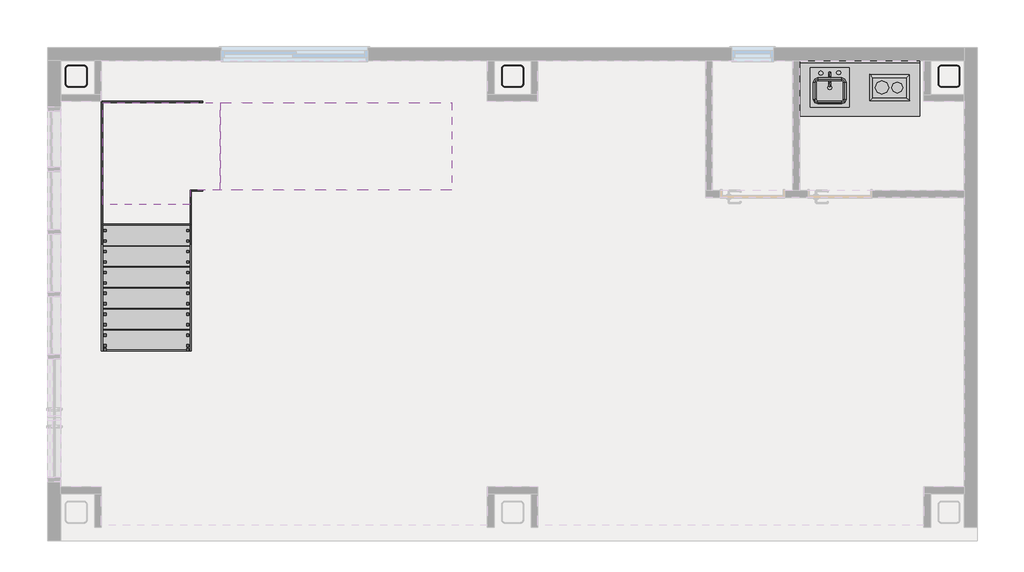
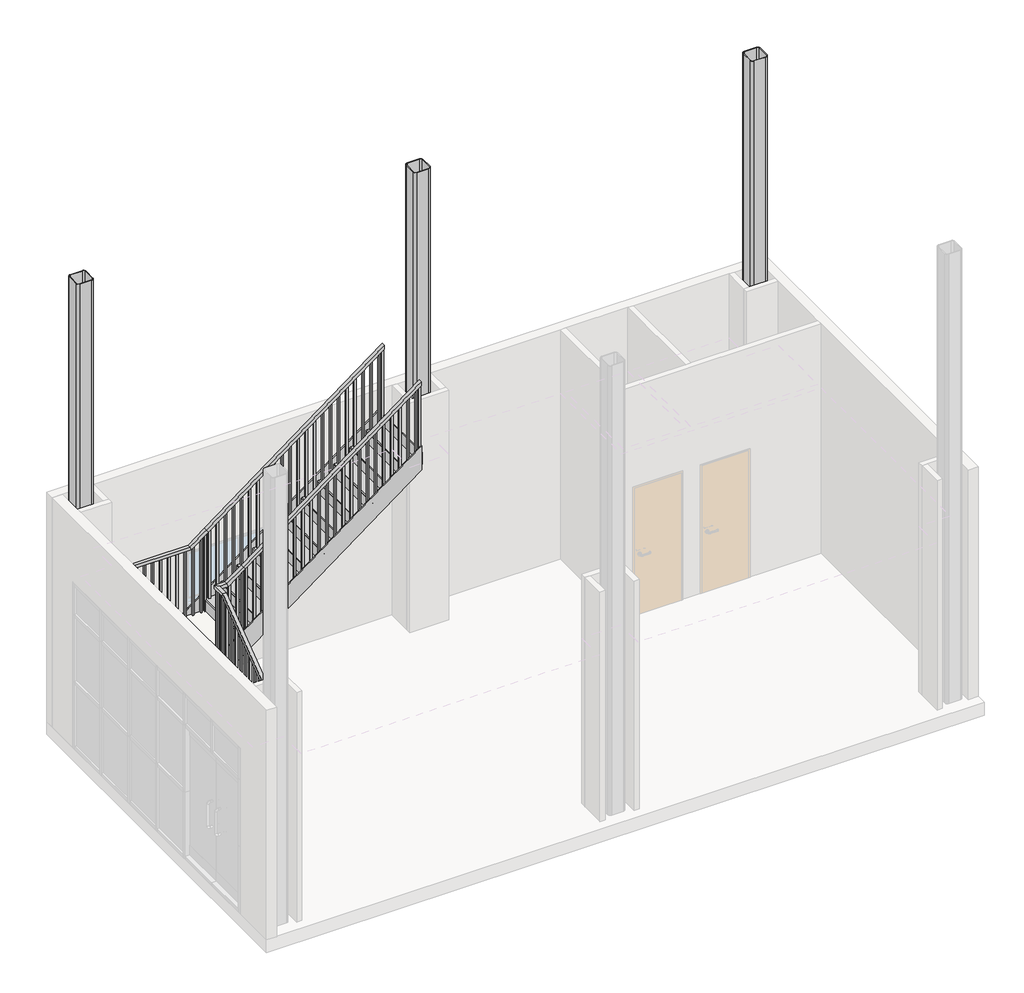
# One storey, part 2 of 2: 7 members, 3 columns, 2 proxies, 2 railings, 2 stair flights, 1 flow terminal, 1 furniture element, 1 slab.
"""IFC4 building model written with IfcOpenShell, lengths in millimetres."""

from ifc_helpers import new_model, si_unit, frame, origin, place, context, project, spatial, polyline, outline, extrude, faceted_brep, transform, mapped, element, save
from components import proxy_1372mm_902c12d3, proxy_305_x_457mm_75991893, hss250x250x12_d809ddac, flow_terminal_450_x_450mm_65598b4f, furniture_600mm_61525606, slab_593adf1e, stair_flight_b28b8e51, stair_flight_15dfc8d3

model = new_model("IFC4")

# Units and contexts
model_context = context("Model", 3, world=origin())
ifc_project = project(units=[si_unit("LENGTHUNIT", "METRE", prefix="MILLI")], contexts=[model_context])

# Site, building, storey
site = spatial("IfcSite", under=ifc_project)
building = spatial("IfcBuilding", under=site)
storey = spatial("IfcBuildingStorey", under=building, Name="1階", Elevation=200.0)

# Proxies
placement = place(None, origin())
proxy_1372mm_shape = proxy_1372mm_902c12d3(model_context)
element("IfcBuildingElementProxy", 1, Name="システムキッチン - スケール(小) - 3D : 1372mm", ObjectType="システムキッチン - スケール(小) - 3D : 1372mm", at=placement, inside=storey, context=model_context, shape_type="MappedRepresentation", body=[
    mapped(proxy_1372mm_shape, transform((3909.3742386, 2761.0382733, 200.0), x_axis=(1.0, 0.0, 0.0), y_axis=(0.0, 1.0, 0.0), z_axis=(0.0, 0.0, 1.0))),
])
proxy_305_x_457mm_shape = proxy_305_x_457mm_75991893(model_context)
element("IfcBuildingElementProxy", 2, Name="レンジ台-2 ユニット : 305 x 457mm", ObjectType="レンジ台-2 ユニット : 305 x 457mm", at=placement, inside=storey, context=model_context, shape_type="MappedRepresentation", body=[
    mapped(proxy_305_x_457mm_shape, transform((4301.3367391, 2379.8382733, 240.0), x_axis=(0.0, 1.0, 0.0), y_axis=(-1.0, 0.0, 0.0), z_axis=(0.0, 0.0, 1.0))),
])

# Columns
hss250x250x12_shape = hss250x250x12_d809ddac(model_context)
element("IfcColumn", 3, ObjectType="正方型鋼管-柱 : HSS250x250x12", at=placement, inside=storey, context=model_context, shape_type="MappedRepresentation", body=[
    mapped(hss250x250x12_shape, transform((-5047.3880564, 2586.0382733, 0.0), x_axis=(-1.0, 0.0, 0.0), y_axis=(0.0, -1.0, 0.0), z_axis=(0.0, 0.0, 1.0))),
])
element("IfcColumn", 4, ObjectType="正方型鋼管-柱 : HSS250x250x12", at=placement, inside=storey, context=model_context, shape_type="MappedRepresentation", body=[
    mapped(hss250x250x12_shape, transform((-47.3880564, 2586.0382733, 0.0), x_axis=(-1.0, 0.0, 0.0), y_axis=(0.0, -1.0, 0.0), z_axis=(0.0, 0.0, 1.0))),
])
element("IfcColumn", 5, ObjectType="正方型鋼管-柱 : HSS250x250x12", at=placement, inside=storey, context=model_context, shape_type="MappedRepresentation", body=[
    mapped(hss250x250x12_shape, transform((4952.6119436, 2586.0382733, 0.0), x_axis=(-1.0, 0.0, 0.0), y_axis=(0.0, -1.0, 0.0), z_axis=(0.0, 0.0, 1.0))),
])

# Flow terminal
flow_terminal_450_x_450mm_shape = flow_terminal_450_x_450mm_65598b4f(model_context)
element("IfcFlowTerminal", 6, ObjectType="シンク キッチン - アイランド : 450 x 450mm", at=placement, inside=storey, context=model_context, shape_type="MappedRepresentation", body=[
    mapped(flow_terminal_450_x_450mm_shape, transform((3569.422703, 2453.6928722, 240.0), x_axis=(1.0, 0.0, 0.0), y_axis=(0.0, 1.0, 0.0), z_axis=(0.0, 0.0, 1.0))),
])

# Furniture
furniture_600mm_shape = furniture_600mm_61525606(model_context)
element("IfcFurniture", 7, ObjectType="カウンタ シンク開口付 : 600mm", at=placement, inside=storey, context=model_context, shape_type="MappedRepresentation", body=[
    mapped(furniture_600mm_shape, transform((4442.5742386, 2761.0382733, 240.0), x_axis=(1.0, 0.0, 0.0), y_axis=(0.0, 1.0, 0.0), z_axis=(0.0, 0.0, 1.0))),
])

# Members
element("IfcMember", 8, ObjectType="側桁 - メタル - 15 mm 幅 50 mm 奥行き", at=placement, inside=storey, context=model_context, shape_type="SweptSolid", body=[
    extrude(outline(polyline([(-563.9617267, 200.0), (-563.9617267, 486.25), (1021.0382733, 1675.0), (1121.0382733, 1375.0), (-445.6283934, 200.0), (-563.9617267, 200.0)])), frame((-4757.8880564, 0.0, 0.0), z_axis=(1.0, 0.0, 0.0), x_axis=(0.0, 1.0, 0.0)), (0.0, 0.0, 1.0), 15.0),
])
element("IfcMember", 9, ObjectType="側桁 - メタル - 15 mm 幅 50 mm 奥行き", at=placement, inside=storey, context=model_context, shape_type="SweptSolid", body=[
    extrude(outline(polyline([(-563.9617267, 200.0), (-563.9617267, 486.25), (1021.0382733, 1675.0), (1121.0382733, 1375.0), (-445.6283934, 200.0), (-563.9617267, 200.0)])), frame((-3742.8880564, 0.0, 0.0), z_axis=(1.0, 0.0, 0.0), x_axis=(0.0, 1.0, 0.0)), (0.0, 0.0, 1.0), 15.0),
])
element("IfcMember", 10, ObjectType="側桁 - メタル - 15 mm 幅 50 mm 奥行き", at=placement, inside=storey, context=model_context, shape_type="SweptSolid", body=[
    extrude(outline(polyline([(1675.0, -3732.3880564), (1375.0, -3632.3880564), (3531.25, -757.3880564), (3906.25, -757.3880564), (1675.0, -3732.3880564)])), frame((0.0, 2281.5382733, 0.0), z_axis=(0.0, 1.0, 0.0), x_axis=(0.0, 0.0, 1.0)), (0.0, 0.0, 1.0), 15.0),
])
element("IfcMember", 11, ObjectType="側桁 - メタル - 15 mm 幅 50 mm 奥行き", at=placement, inside=storey, context=model_context, shape_type="SweptSolid", body=[
    extrude(outline(polyline([(1678.375, -3727.8880564), (1375.0, -3727.8880564), (1375.0, -3632.3880564), (3531.25, -757.3880564), (3906.25, -757.3880564), (1678.375, -3727.8880564)])), frame((0.0, 1266.5382733, 0.0), z_axis=(0.0, 1.0, 0.0), x_axis=(0.0, 0.0, 1.0)), (0.0, 0.0, 1.0), 15.0),
])
element("IfcMember", 12, ObjectType="側桁 - メタル - 15 mm 幅 50 mm 奥行き", at=placement, inside=storey, context=model_context, shape_type="Brep", body=[
    faceted_brep([(-3732.3880564, 2281.5382733, 1675.0), (-3732.3880564, 2296.5382733, 1675.0), (-4757.8880564, 2296.5382733, 1675.0), (-4742.8880564, 2281.5382733, 1675.0), (-3632.3880564, 2281.5382733, 1375.0), (-4742.8880564, 2281.5382733, 1375.0), (-3632.3880564, 2296.5382733, 1375.0), (-4757.8880564, 2296.5382733, 1375.0)], [[[0, 1, 2, 3]], [[4, 0, 3, 5]], [[6, 4, 5, 7]], [[1, 6, 7, 2]], [[1, 0, 4, 6]], [[2, 7, 5, 3]]]),
])
element("IfcMember", 13, ObjectType="側桁 - メタル - 15 mm 幅 50 mm 奥行き", at=placement, inside=storey, context=model_context, shape_type="Brep", body=[
    faceted_brep([(-4742.8880564, 2281.5382733, 1675.0), (-4757.8880564, 2296.5382733, 1675.0), (-4757.8880564, 1021.0382733, 1675.0), (-4742.8880564, 1021.0382733, 1675.0), (-4742.8880564, 2281.5382733, 1375.0), (-4742.8880564, 1121.0382733, 1375.0), (-4757.8880564, 2296.5382733, 1375.0), (-4757.8880564, 1121.0382733, 1375.0)], [[[0, 1, 2, 3]], [[4, 0, 3, 5]], [[6, 4, 5, 7]], [[1, 6, 7, 2]], [[1, 0, 4, 6]], [[2, 7, 5, 3]]]),
])
element("IfcMember", 14, ObjectType="側桁 - メタル - 15 mm 幅 50 mm 奥行き", at=placement, inside=storey, context=model_context, shape_type="SweptSolid", body=[
    extrude(outline(polyline([(1121.0382733, 1375.0), (1021.0382733, 1675.0), (1281.5382733, 1675.0), (1281.5382733, 1375.0), (1121.0382733, 1375.0)])), frame((-3742.8880564, 0.0, 0.0), z_axis=(1.0, 0.0, 0.0), x_axis=(0.0, 1.0, 0.0)), (0.0, 0.0, 1.0), 15.0),
])

# Railings
element("IfcRailing", 15, ObjectType="1100mm", at=placement, inside=storey, context=model_context, shape_type="SolidModel", body=[
    faceted_brep([(-3793.2880564, -563.9617267, 1480.0), (-3793.2880564, -563.9617267, 1417.5), (-3743.2880564, -563.9617267, 1417.5), (-3743.2880564, -563.9617267, 1480.0), (-3793.2880564, 1116.0382733, 2740.0), (-3793.2880564, 1132.7049399, 2690.0), (-3743.2880564, 1132.7049399, 2690.0), (-3743.2880564, 1116.0382733, 2740.0), (-3793.2880564, 1331.9382733, 2740.0), (-3793.2880564, 1331.9382733, 2690.0), (-3743.2880564, 1281.9382733, 2690.0), (-3743.2880564, 1281.9382733, 2740.0), (-3637.3880564, 1331.9382733, 2740.0), (-3620.7213898, 1331.9382733, 2690.0), (-3620.7213898, 1281.9382733, 2690.0), (-3637.3880564, 1281.9382733, 2740.0), (-3397.3880564, 1331.9382733, 2920.0), (-3367.3880564, 1331.9382733, 2880.0), (-3367.3880564, 1281.9382733, 2880.0), (-3397.3880564, 1281.9382733, 2920.0), (-757.3880564, 1331.9382733, 4900.0), (-757.3880564, 1281.9382733, 4900.0), (-757.3880564, 1281.9382733, 4837.5), (-757.3880564, 1331.9382733, 4837.5)], [[[0, 1, 2, 3]], [[1, 0, 4, 5]], [[2, 1, 5, 6]], [[3, 2, 6, 7]], [[0, 3, 7, 4]], [[5, 4, 8, 9]], [[6, 5, 9, 10]], [[7, 6, 10, 11]], [[4, 7, 11, 8]], [[9, 8, 12, 13]], [[10, 9, 13, 14]], [[11, 10, 14, 15]], [[8, 11, 15, 12]], [[13, 12, 16, 17]], [[14, 13, 17, 18]], [[15, 14, 18, 19]], [[12, 15, 19, 16]], [[20, 21, 22, 23]], [[17, 16, 20, 23]], [[18, 17, 23, 22]], [[19, 18, 22, 21]], [[16, 19, 21, 20]]]),
    extrude(outline(polyline([(4783.125, -829.8880564), (3620.0, -829.8880564), (3620.0, -804.8880564), (4801.875, -804.8880564), (4783.125, -829.8880564)])), frame((0.0, 1294.4382733, 0.0), z_axis=(0.0, 1.0, 0.0), x_axis=(0.0, 0.0, 1.0)), (0.0, 0.0, 1.0), 25.0),
    extrude(outline(polyline([(4693.125, -949.8880564), (3620.0, -949.8880564), (3620.0, -924.8880564), (4711.875, -924.8880564), (4693.125, -949.8880564)])), frame((0.0, 1294.4382733, 0.0), z_axis=(0.0, 1.0, 0.0), x_axis=(0.0, 0.0, 1.0)), (0.0, 0.0, 1.0), 25.0),
    extrude(outline(polyline([(4603.125, -1069.8880564), (3440.0, -1069.8880564), (3440.0, -1044.8880564), (4621.875, -1044.8880564), (4603.125, -1069.8880564)])), frame((0.0, 1294.4382733, 0.0), z_axis=(0.0, 1.0, 0.0), x_axis=(0.0, 0.0, 1.0)), (0.0, 0.0, 1.0), 25.0),
    extrude(outline(polyline([(4513.125, -1189.8880564), (3440.0, -1189.8880564), (3440.0, -1164.8880564), (4531.875, -1164.8880564), (4513.125, -1189.8880564)])), frame((0.0, 1294.4382733, 0.0), z_axis=(0.0, 1.0, 0.0), x_axis=(0.0, 0.0, 1.0)), (0.0, 0.0, 1.0), 25.0),
    extrude(outline(polyline([(4423.125, -1309.8880564), (3260.0, -1309.8880564), (3260.0, -1284.8880564), (4441.875, -1284.8880564), (4423.125, -1309.8880564)])), frame((0.0, 1294.4382733, 0.0), z_axis=(0.0, 1.0, 0.0), x_axis=(0.0, 0.0, 1.0)), (0.0, 0.0, 1.0), 25.0),
    extrude(outline(polyline([(4333.125, -1429.8880564), (3260.0, -1429.8880564), (3260.0, -1404.8880564), (4351.875, -1404.8880564), (4333.125, -1429.8880564)])), frame((0.0, 1294.4382733, 0.0), z_axis=(0.0, 1.0, 0.0), x_axis=(0.0, 0.0, 1.0)), (0.0, 0.0, 1.0), 25.0),
    extrude(outline(polyline([(4243.125, -1549.8880564), (3080.0, -1549.8880564), (3080.0, -1524.8880564), (4261.875, -1524.8880564), (4243.125, -1549.8880564)])), frame((0.0, 1294.4382733, 0.0), z_axis=(0.0, 1.0, 0.0), x_axis=(0.0, 0.0, 1.0)), (0.0, 0.0, 1.0), 25.0),
    extrude(outline(polyline([(4153.125, -1669.8880564), (3080.0, -1669.8880564), (3080.0, -1644.8880564), (4171.875, -1644.8880564), (4153.125, -1669.8880564)])), frame((0.0, 1294.4382733, 0.0), z_axis=(0.0, 1.0, 0.0), x_axis=(0.0, 0.0, 1.0)), (0.0, 0.0, 1.0), 25.0),
    extrude(outline(polyline([(4063.125, -1789.8880564), (2900.0, -1789.8880564), (2900.0, -1764.8880564), (4081.875, -1764.8880564), (4063.125, -1789.8880564)])), frame((0.0, 1294.4382733, 0.0), z_axis=(0.0, 1.0, 0.0), x_axis=(0.0, 0.0, 1.0)), (0.0, 0.0, 1.0), 25.0),
    extrude(outline(polyline([(3973.125, -1909.8880564), (2900.0, -1909.8880564), (2900.0, -1884.8880564), (3991.875, -1884.8880564), (3973.125, -1909.8880564)])), frame((0.0, 1294.4382733, 0.0), z_axis=(0.0, 1.0, 0.0), x_axis=(0.0, 0.0, 1.0)), (0.0, 0.0, 1.0), 25.0),
    extrude(outline(polyline([(3883.125, -2029.8880564), (2720.0, -2029.8880564), (2720.0, -2004.8880564), (3901.875, -2004.8880564), (3883.125, -2029.8880564)])), frame((0.0, 1294.4382733, 0.0), z_axis=(0.0, 1.0, 0.0), x_axis=(0.0, 0.0, 1.0)), (0.0, 0.0, 1.0), 25.0),
    extrude(outline(polyline([(3793.125, -2149.8880564), (2720.0, -2149.8880564), (2720.0, -2124.8880564), (3811.875, -2124.8880564), (3793.125, -2149.8880564)])), frame((0.0, 1294.4382733, 0.0), z_axis=(0.0, 1.0, 0.0), x_axis=(0.0, 0.0, 1.0)), (0.0, 0.0, 1.0), 25.0),
    extrude(outline(polyline([(3703.125, -2269.8880564), (2540.0, -2269.8880564), (2540.0, -2244.8880564), (3721.875, -2244.8880564), (3703.125, -2269.8880564)])), frame((0.0, 1294.4382733, 0.0), z_axis=(0.0, 1.0, 0.0), x_axis=(0.0, 0.0, 1.0)), (0.0, 0.0, 1.0), 25.0),
    extrude(outline(polyline([(3613.125, -2389.8880564), (2540.0, -2389.8880564), (2540.0, -2364.8880564), (3631.875, -2364.8880564), (3613.125, -2389.8880564)])), frame((0.0, 1294.4382733, 0.0), z_axis=(0.0, 1.0, 0.0), x_axis=(0.0, 0.0, 1.0)), (0.0, 0.0, 1.0), 25.0),
    extrude(outline(polyline([(3523.125, -2509.8880564), (2360.0, -2509.8880564), (2360.0, -2484.8880564), (3541.875, -2484.8880564), (3523.125, -2509.8880564)])), frame((0.0, 1294.4382733, 0.0), z_axis=(0.0, 1.0, 0.0), x_axis=(0.0, 0.0, 1.0)), (0.0, 0.0, 1.0), 25.0),
    extrude(outline(polyline([(3433.125, -2629.8880564), (2360.0, -2629.8880564), (2360.0, -2604.8880564), (3451.875, -2604.8880564), (3433.125, -2629.8880564)])), frame((0.0, 1294.4382733, 0.0), z_axis=(0.0, 1.0, 0.0), x_axis=(0.0, 0.0, 1.0)), (0.0, 0.0, 1.0), 25.0),
    extrude(outline(polyline([(3343.125, -2749.8880564), (2180.0, -2749.8880564), (2180.0, -2724.8880564), (3361.875, -2724.8880564), (3343.125, -2749.8880564)])), frame((0.0, 1294.4382733, 0.0), z_axis=(0.0, 1.0, 0.0), x_axis=(0.0, 0.0, 1.0)), (0.0, 0.0, 1.0), 25.0),
    extrude(outline(polyline([(3253.125, -2869.8880564), (2180.0, -2869.8880564), (2180.0, -2844.8880564), (3271.875, -2844.8880564), (3253.125, -2869.8880564)])), frame((0.0, 1294.4382733, 0.0), z_axis=(0.0, 1.0, 0.0), x_axis=(0.0, 0.0, 1.0)), (0.0, 0.0, 1.0), 25.0),
    extrude(outline(polyline([(3163.125, -2989.8880564), (2000.0, -2989.8880564), (2000.0, -2964.8880564), (3181.875, -2964.8880564), (3163.125, -2989.8880564)])), frame((0.0, 1294.4382733, 0.0), z_axis=(0.0, 1.0, 0.0), x_axis=(0.0, 0.0, 1.0)), (0.0, 0.0, 1.0), 25.0),
    extrude(outline(polyline([(3073.125, -3109.8880564), (2000.0, -3109.8880564), (2000.0, -3084.8880564), (3091.875, -3084.8880564), (3073.125, -3109.8880564)])), frame((0.0, 1294.4382733, 0.0), z_axis=(0.0, 1.0, 0.0), x_axis=(0.0, 0.0, 1.0)), (0.0, 0.0, 1.0), 25.0),
    extrude(outline(polyline([(2983.125, -3229.8880564), (1820.0, -3229.8880564), (1820.0, -3204.8880564), (3001.875, -3204.8880564), (2983.125, -3229.8880564)])), frame((0.0, 1294.4382733, 0.0), z_axis=(0.0, 1.0, 0.0), x_axis=(0.0, 0.0, 1.0)), (0.0, 0.0, 1.0), 25.0),
    extrude(outline(polyline([(2893.125, -3349.8880564), (1820.0, -3349.8880564), (1820.0, -3324.8880564), (2911.875, -3324.8880564), (2893.125, -3349.8880564)])), frame((0.0, 1294.4382733, 0.0), z_axis=(0.0, 1.0, 0.0), x_axis=(0.0, 0.0, 1.0)), (0.0, 0.0, 1.0), 25.0),
    extrude(outline(polyline([(2794.95, -3480.7880564), (1640.0, -3480.7880564), (1640.0, -3455.7880564), (2813.7, -3455.7880564), (2794.95, -3480.7880564)])), frame((0.0, 1294.4382733, 0.0), z_axis=(0.0, 1.0, 0.0), x_axis=(0.0, 0.0, 1.0)), (0.0, 0.0, 1.0), 25.0),
    extrude(outline(polyline([(2704.95, -3600.7880564), (1640.0, -3600.7880564), (1640.0, -3575.7880564), (2723.7, -3575.7880564), (2704.95, -3600.7880564)])), frame((0.0, 1294.4382733, 0.0), z_axis=(0.0, 1.0, 0.0), x_axis=(0.0, 0.0, 1.0)), (0.0, 0.0, 1.0), 25.0),
    extrude(outline(polyline([(-3720.7880564, 1294.4382733), (-3720.7880564, 1319.4382733), (-3695.7880564, 1319.4382733), (-3695.7880564, 1294.4382733), (-3720.7880564, 1294.4382733)])), frame((0.0, 0.0, 1640.0), z_axis=(0.0, 0.0, 1.0), x_axis=(1.0, 0.0, 0.0)), (0.0, 0.0, 1.0), 1050.0),
    extrude(outline(polyline([(-3755.7880564, 1283.5382733), (-3780.7880564, 1283.5382733), (-3780.7880564, 1308.5382733), (-3755.7880564, 1308.5382733), (-3755.7880564, 1283.5382733)])), frame((0.0, 0.0, 1640.0), z_axis=(0.0, 0.0, 1.0), x_axis=(1.0, 0.0, 0.0)), (0.0, 0.0, 1.0), 1050.0),
    extrude(outline(polyline([(-3755.7880564, 1163.5382733), (-3780.7880564, 1163.5382733), (-3780.7880564, 1188.5382733), (-3755.7880564, 1188.5382733), (-3755.7880564, 1163.5382733)])), frame((0.0, 0.0, 1640.0), z_axis=(0.0, 0.0, 1.0), x_axis=(1.0, 0.0, 0.0)), (0.0, 0.0, 1.0), 1050.0),
    extrude(outline(polyline([(1043.5382733, 1460.0), (1043.5382733, 2623.125), (1068.5382733, 2641.875), (1068.5382733, 1460.0), (1043.5382733, 1460.0)])), frame((-3780.7880564, 0.0, 0.0), z_axis=(1.0, 0.0, 0.0), x_axis=(0.0, 1.0, 0.0)), (0.0, 0.0, 1.0), 25.0),
    extrude(outline(polyline([(923.5382733, 1460.0), (923.5382733, 2533.125), (948.5382733, 2551.875), (948.5382733, 1460.0), (923.5382733, 1460.0)])), frame((-3780.7880564, 0.0, 0.0), z_axis=(1.0, 0.0, 0.0), x_axis=(0.0, 1.0, 0.0)), (0.0, 0.0, 1.0), 25.0),
    extrude(outline(polyline([(803.5382733, 1280.0), (803.5382733, 2443.125), (828.5382733, 2461.875), (828.5382733, 1280.0), (803.5382733, 1280.0)])), frame((-3780.7880564, 0.0, 0.0), z_axis=(1.0, 0.0, 0.0), x_axis=(0.0, 1.0, 0.0)), (0.0, 0.0, 1.0), 25.0),
    extrude(outline(polyline([(683.5382733, 1280.0), (683.5382733, 2353.125), (708.5382733, 2371.875), (708.5382733, 1280.0), (683.5382733, 1280.0)])), frame((-3780.7880564, 0.0, 0.0), z_axis=(1.0, 0.0, 0.0), x_axis=(0.0, 1.0, 0.0)), (0.0, 0.0, 1.0), 25.0),
    extrude(outline(polyline([(563.5382733, 1100.0), (563.5382733, 2263.125), (588.5382733, 2281.875), (588.5382733, 1100.0), (563.5382733, 1100.0)])), frame((-3780.7880564, 0.0, 0.0), z_axis=(1.0, 0.0, 0.0), x_axis=(0.0, 1.0, 0.0)), (0.0, 0.0, 1.0), 25.0),
    extrude(outline(polyline([(443.5382733, 1100.0), (443.5382733, 2173.125), (468.5382733, 2191.875), (468.5382733, 1100.0), (443.5382733, 1100.0)])), frame((-3780.7880564, 0.0, 0.0), z_axis=(1.0, 0.0, 0.0), x_axis=(0.0, 1.0, 0.0)), (0.0, 0.0, 1.0), 25.0),
    extrude(outline(polyline([(323.5382733, 920.0), (323.5382733, 2083.125), (348.5382733, 2101.875), (348.5382733, 920.0), (323.5382733, 920.0)])), frame((-3780.7880564, 0.0, 0.0), z_axis=(1.0, 0.0, 0.0), x_axis=(0.0, 1.0, 0.0)), (0.0, 0.0, 1.0), 25.0),
    extrude(outline(polyline([(203.5382733, 920.0), (203.5382733, 1993.125), (228.5382733, 2011.875), (228.5382733, 920.0), (203.5382733, 920.0)])), frame((-3780.7880564, 0.0, 0.0), z_axis=(1.0, 0.0, 0.0), x_axis=(0.0, 1.0, 0.0)), (0.0, 0.0, 1.0), 25.0),
    extrude(outline(polyline([(83.5382733, 740.0), (83.5382733, 1903.125), (108.5382733, 1921.875), (108.5382733, 740.0), (83.5382733, 740.0)])), frame((-3780.7880564, 0.0, 0.0), z_axis=(1.0, 0.0, 0.0), x_axis=(0.0, 1.0, 0.0)), (0.0, 0.0, 1.0), 25.0),
    extrude(outline(polyline([(-36.4617267, 740.0), (-36.4617267, 1813.125), (-11.4617267, 1831.875), (-11.4617267, 740.0), (-36.4617267, 740.0)])), frame((-3780.7880564, 0.0, 0.0), z_axis=(1.0, 0.0, 0.0), x_axis=(0.0, 1.0, 0.0)), (0.0, 0.0, 1.0), 25.0),
    extrude(outline(polyline([(-156.4617267, 560.0), (-156.4617267, 1723.125), (-131.4617267, 1741.875), (-131.4617267, 560.0), (-156.4617267, 560.0)])), frame((-3780.7880564, 0.0, 0.0), z_axis=(1.0, 0.0, 0.0), x_axis=(0.0, 1.0, 0.0)), (0.0, 0.0, 1.0), 25.0),
    extrude(outline(polyline([(-276.4617267, 560.0), (-276.4617267, 1633.125), (-251.4617267, 1651.875), (-251.4617267, 560.0), (-276.4617267, 560.0)])), frame((-3780.7880564, 0.0, 0.0), z_axis=(1.0, 0.0, 0.0), x_axis=(0.0, 1.0, 0.0)), (0.0, 0.0, 1.0), 25.0),
    extrude(outline(polyline([(-396.4617267, 380.0), (-396.4617267, 1543.125), (-371.4617267, 1561.875), (-371.4617267, 380.0), (-396.4617267, 380.0)])), frame((-3780.7880564, 0.0, 0.0), z_axis=(1.0, 0.0, 0.0), x_axis=(0.0, 1.0, 0.0)), (0.0, 0.0, 1.0), 25.0),
    extrude(outline(polyline([(-516.4617267, 380.0), (-516.4617267, 1453.125), (-491.4617267, 1471.875), (-491.4617267, 380.0), (-516.4617267, 380.0)])), frame((-3780.7880564, 0.0, 0.0), z_axis=(1.0, 0.0, 0.0), x_axis=(0.0, 1.0, 0.0)), (0.0, 0.0, 1.0), 25.0),
    extrude(outline(polyline([(2848.125, -3409.8880564), (1640.0, -3409.8880564), (1640.0, -3384.8880564), (2866.875, -3384.8880564), (2848.125, -3409.8880564)])), frame((0.0, 1294.4382733, 0.0), z_axis=(0.0, 1.0, 0.0), x_axis=(0.0, 0.0, 1.0)), (0.0, 0.0, 1.0), 25.0),
    extrude(outline(polyline([(-3755.7880564, 1294.4382733), (-3780.7880564, 1294.4382733), (-3780.7880564, 1319.4382733), (-3755.7880564, 1319.4382733), (-3755.7880564, 1294.4382733)])), frame((0.0, 0.0, 1640.0), z_axis=(0.0, 0.0, 1.0), x_axis=(1.0, 0.0, 0.0)), (0.0, 0.0, 1.0), 1050.0),
    extrude(outline(polyline([(1103.5382733, 1640.0), (1103.5382733, 2668.125), (1128.5382733, 2686.875), (1128.5382733, 1640.0), (1103.5382733, 1640.0)])), frame((-3780.7880564, 0.0, 0.0), z_axis=(1.0, 0.0, 0.0), x_axis=(0.0, 1.0, 0.0)), (0.0, 0.0, 1.0), 25.0),
    extrude(outline(polyline([(4818.75, -782.3880564), (3620.0, -782.3880564), (3620.0, -757.3880564), (4837.5, -757.3880564), (4818.75, -782.3880564)])), frame((0.0, 1294.4382733, 0.0), z_axis=(0.0, 1.0, 0.0), x_axis=(0.0, 0.0, 1.0)), (0.0, 0.0, 1.0), 25.0),
    extrude(outline(polyline([(-563.9617267, 380.0), (-563.9617267, 1417.5), (-538.9617267, 1436.25), (-538.9617267, 380.0), (-563.9617267, 380.0)])), frame((-3780.7880564, 0.0, 0.0), z_axis=(1.0, 0.0, 0.0), x_axis=(0.0, 1.0, 0.0)), (0.0, 0.0, 1.0), 25.0),
])
element("IfcRailing", 16, ObjectType="1100mm", at=placement, inside=storey, context=model_context, shape_type="SolidModel", body=[
    faceted_brep([(-4742.4880564, -563.9617267, 1480.0), (-4742.4880564, -563.9617267, 1417.5), (-4692.4880564, -563.9617267, 1417.5), (-4692.4880564, -563.9617267, 1480.0), (-4742.4880564, 1116.0382733, 2740.0), (-4742.4880564, 1132.7049399, 2690.0), (-4692.4880564, 1132.7049399, 2690.0), (-4692.4880564, 1116.0382733, 2740.0), (-4742.4880564, 2281.1382733, 2740.0), (-4742.4880564, 2281.1382733, 2690.0), (-4692.4880564, 2231.1382733, 2690.0), (-4692.4880564, 2231.1382733, 2740.0), (-3637.3880564, 2281.1382733, 2740.0), (-3620.7213898, 2281.1382733, 2690.0), (-3620.7213898, 2231.1382733, 2690.0), (-3637.3880564, 2231.1382733, 2740.0), (-3397.3880564, 2281.1382733, 2920.0), (-3367.3880564, 2281.1382733, 2880.0), (-3367.3880564, 2231.1382733, 2880.0), (-3397.3880564, 2231.1382733, 2920.0), (-757.3880564, 2281.1382733, 4900.0), (-757.3880564, 2231.1382733, 4900.0), (-757.3880564, 2231.1382733, 4837.5), (-757.3880564, 2281.1382733, 4837.5)], [[[0, 1, 2, 3]], [[1, 0, 4, 5]], [[2, 1, 5, 6]], [[3, 2, 6, 7]], [[0, 3, 7, 4]], [[5, 4, 8, 9]], [[6, 5, 9, 10]], [[7, 6, 10, 11]], [[4, 7, 11, 8]], [[9, 8, 12, 13]], [[10, 9, 13, 14]], [[11, 10, 14, 15]], [[8, 11, 15, 12]], [[13, 12, 16, 17]], [[14, 13, 17, 18]], [[15, 14, 18, 19]], [[12, 15, 19, 16]], [[20, 21, 22, 23]], [[17, 16, 20, 23]], [[18, 17, 23, 22]], [[19, 18, 22, 21]], [[16, 19, 21, 20]]]),
    extrude(outline(polyline([(3620.0, -829.8880564), (3620.0, -804.8880564), (4801.875, -804.8880564), (4783.125, -829.8880564), (3620.0, -829.8880564)])), frame((0.0, 2243.6382733, 0.0), z_axis=(0.0, 1.0, 0.0), x_axis=(0.0, 0.0, 1.0)), (0.0, 0.0, 1.0), 25.0),
    extrude(outline(polyline([(3620.0, -949.8880564), (3620.0, -924.8880564), (4711.875, -924.8880564), (4693.125, -949.8880564), (3620.0, -949.8880564)])), frame((0.0, 2243.6382733, 0.0), z_axis=(0.0, 1.0, 0.0), x_axis=(0.0, 0.0, 1.0)), (0.0, 0.0, 1.0), 25.0),
    extrude(outline(polyline([(3440.0, -1069.8880564), (3440.0, -1044.8880564), (4621.875, -1044.8880564), (4603.125, -1069.8880564), (3440.0, -1069.8880564)])), frame((0.0, 2243.6382733, 0.0), z_axis=(0.0, 1.0, 0.0), x_axis=(0.0, 0.0, 1.0)), (0.0, 0.0, 1.0), 25.0),
    extrude(outline(polyline([(3440.0, -1189.8880564), (3440.0, -1164.8880564), (4531.875, -1164.8880564), (4513.125, -1189.8880564), (3440.0, -1189.8880564)])), frame((0.0, 2243.6382733, 0.0), z_axis=(0.0, 1.0, 0.0), x_axis=(0.0, 0.0, 1.0)), (0.0, 0.0, 1.0), 25.0),
    extrude(outline(polyline([(3260.0, -1309.8880564), (3260.0, -1284.8880564), (4441.875, -1284.8880564), (4423.125, -1309.8880564), (3260.0, -1309.8880564)])), frame((0.0, 2243.6382733, 0.0), z_axis=(0.0, 1.0, 0.0), x_axis=(0.0, 0.0, 1.0)), (0.0, 0.0, 1.0), 25.0),
    extrude(outline(polyline([(3260.0, -1429.8880564), (3260.0, -1404.8880564), (4351.875, -1404.8880564), (4333.125, -1429.8880564), (3260.0, -1429.8880564)])), frame((0.0, 2243.6382733, 0.0), z_axis=(0.0, 1.0, 0.0), x_axis=(0.0, 0.0, 1.0)), (0.0, 0.0, 1.0), 25.0),
    extrude(outline(polyline([(3080.0, -1549.8880564), (3080.0, -1524.8880564), (4261.875, -1524.8880564), (4243.125, -1549.8880564), (3080.0, -1549.8880564)])), frame((0.0, 2243.6382733, 0.0), z_axis=(0.0, 1.0, 0.0), x_axis=(0.0, 0.0, 1.0)), (0.0, 0.0, 1.0), 25.0),
    extrude(outline(polyline([(3080.0, -1669.8880564), (3080.0, -1644.8880564), (4171.875, -1644.8880564), (4153.125, -1669.8880564), (3080.0, -1669.8880564)])), frame((0.0, 2243.6382733, 0.0), z_axis=(0.0, 1.0, 0.0), x_axis=(0.0, 0.0, 1.0)), (0.0, 0.0, 1.0), 25.0),
    extrude(outline(polyline([(2900.0, -1789.8880564), (2900.0, -1764.8880564), (4081.875, -1764.8880564), (4063.125, -1789.8880564), (2900.0, -1789.8880564)])), frame((0.0, 2243.6382733, 0.0), z_axis=(0.0, 1.0, 0.0), x_axis=(0.0, 0.0, 1.0)), (0.0, 0.0, 1.0), 25.0),
    extrude(outline(polyline([(2900.0, -1909.8880564), (2900.0, -1884.8880564), (3991.875, -1884.8880564), (3973.125, -1909.8880564), (2900.0, -1909.8880564)])), frame((0.0, 2243.6382733, 0.0), z_axis=(0.0, 1.0, 0.0), x_axis=(0.0, 0.0, 1.0)), (0.0, 0.0, 1.0), 25.0),
    extrude(outline(polyline([(2720.0, -2029.8880564), (2720.0, -2004.8880564), (3901.875, -2004.8880564), (3883.125, -2029.8880564), (2720.0, -2029.8880564)])), frame((0.0, 2243.6382733, 0.0), z_axis=(0.0, 1.0, 0.0), x_axis=(0.0, 0.0, 1.0)), (0.0, 0.0, 1.0), 25.0),
    extrude(outline(polyline([(2720.0, -2149.8880564), (2720.0, -2124.8880564), (3811.875, -2124.8880564), (3793.125, -2149.8880564), (2720.0, -2149.8880564)])), frame((0.0, 2243.6382733, 0.0), z_axis=(0.0, 1.0, 0.0), x_axis=(0.0, 0.0, 1.0)), (0.0, 0.0, 1.0), 25.0),
    extrude(outline(polyline([(2540.0, -2269.8880564), (2540.0, -2244.8880564), (3721.875, -2244.8880564), (3703.125, -2269.8880564), (2540.0, -2269.8880564)])), frame((0.0, 2243.6382733, 0.0), z_axis=(0.0, 1.0, 0.0), x_axis=(0.0, 0.0, 1.0)), (0.0, 0.0, 1.0), 25.0),
    extrude(outline(polyline([(2540.0, -2389.8880564), (2540.0, -2364.8880564), (3631.875, -2364.8880564), (3613.125, -2389.8880564), (2540.0, -2389.8880564)])), frame((0.0, 2243.6382733, 0.0), z_axis=(0.0, 1.0, 0.0), x_axis=(0.0, 0.0, 1.0)), (0.0, 0.0, 1.0), 25.0),
    extrude(outline(polyline([(2360.0, -2509.8880564), (2360.0, -2484.8880564), (3541.875, -2484.8880564), (3523.125, -2509.8880564), (2360.0, -2509.8880564)])), frame((0.0, 2243.6382733, 0.0), z_axis=(0.0, 1.0, 0.0), x_axis=(0.0, 0.0, 1.0)), (0.0, 0.0, 1.0), 25.0),
    extrude(outline(polyline([(2360.0, -2629.8880564), (2360.0, -2604.8880564), (3451.875, -2604.8880564), (3433.125, -2629.8880564), (2360.0, -2629.8880564)])), frame((0.0, 2243.6382733, 0.0), z_axis=(0.0, 1.0, 0.0), x_axis=(0.0, 0.0, 1.0)), (0.0, 0.0, 1.0), 25.0),
    extrude(outline(polyline([(2180.0, -2749.8880564), (2180.0, -2724.8880564), (3361.875, -2724.8880564), (3343.125, -2749.8880564), (2180.0, -2749.8880564)])), frame((0.0, 2243.6382733, 0.0), z_axis=(0.0, 1.0, 0.0), x_axis=(0.0, 0.0, 1.0)), (0.0, 0.0, 1.0), 25.0),
    extrude(outline(polyline([(2180.0, -2869.8880564), (2180.0, -2844.8880564), (3271.875, -2844.8880564), (3253.125, -2869.8880564), (2180.0, -2869.8880564)])), frame((0.0, 2243.6382733, 0.0), z_axis=(0.0, 1.0, 0.0), x_axis=(0.0, 0.0, 1.0)), (0.0, 0.0, 1.0), 25.0),
    extrude(outline(polyline([(2000.0, -2989.8880564), (2000.0, -2964.8880564), (3181.875, -2964.8880564), (3163.125, -2989.8880564), (2000.0, -2989.8880564)])), frame((0.0, 2243.6382733, 0.0), z_axis=(0.0, 1.0, 0.0), x_axis=(0.0, 0.0, 1.0)), (0.0, 0.0, 1.0), 25.0),
    extrude(outline(polyline([(2000.0, -3109.8880564), (2000.0, -3084.8880564), (3091.875, -3084.8880564), (3073.125, -3109.8880564), (2000.0, -3109.8880564)])), frame((0.0, 2243.6382733, 0.0), z_axis=(0.0, 1.0, 0.0), x_axis=(0.0, 0.0, 1.0)), (0.0, 0.0, 1.0), 25.0),
    extrude(outline(polyline([(1820.0, -3229.8880564), (1820.0, -3204.8880564), (3001.875, -3204.8880564), (2983.125, -3229.8880564), (1820.0, -3229.8880564)])), frame((0.0, 2243.6382733, 0.0), z_axis=(0.0, 1.0, 0.0), x_axis=(0.0, 0.0, 1.0)), (0.0, 0.0, 1.0), 25.0),
    extrude(outline(polyline([(1820.0, -3349.8880564), (1820.0, -3324.8880564), (2911.875, -3324.8880564), (2893.125, -3349.8880564), (1820.0, -3349.8880564)])), frame((0.0, 2243.6382733, 0.0), z_axis=(0.0, 1.0, 0.0), x_axis=(0.0, 0.0, 1.0)), (0.0, 0.0, 1.0), 25.0),
    extrude(outline(polyline([(1640.0, -3469.9880564), (1640.0, -3444.9880564), (2821.8, -3444.9880564), (2803.05, -3469.9880564), (1640.0, -3469.9880564)])), frame((0.0, 2243.6382733, 0.0), z_axis=(0.0, 1.0, 0.0), x_axis=(0.0, 0.0, 1.0)), (0.0, 0.0, 1.0), 25.0),
    extrude(outline(polyline([(1640.0, -3589.9880564), (1640.0, -3564.9880564), (2731.8, -3564.9880564), (2713.05, -3589.9880564), (1640.0, -3589.9880564)])), frame((0.0, 2243.6382733, 0.0), z_axis=(0.0, 1.0, 0.0), x_axis=(0.0, 0.0, 1.0)), (0.0, 0.0, 1.0), 25.0),
    extrude(outline(polyline([(-3709.9880564, 2268.6382733), (-3684.9880564, 2268.6382733), (-3684.9880564, 2243.6382733), (-3709.9880564, 2243.6382733), (-3709.9880564, 2268.6382733)])), frame((0.0, 0.0, 1640.0), z_axis=(0.0, 0.0, 1.0), x_axis=(1.0, 0.0, 0.0)), (0.0, 0.0, 1.0), 1050.0),
    extrude(outline(polyline([(-3829.9880564, 2268.6382733), (-3804.9880564, 2268.6382733), (-3804.9880564, 2243.6382733), (-3829.9880564, 2243.6382733), (-3829.9880564, 2268.6382733)])), frame((0.0, 0.0, 1640.0), z_axis=(0.0, 0.0, 1.0), x_axis=(1.0, 0.0, 0.0)), (0.0, 0.0, 1.0), 1050.0),
    extrude(outline(polyline([(-3949.9880564, 2268.6382733), (-3924.9880564, 2268.6382733), (-3924.9880564, 2243.6382733), (-3949.9880564, 2243.6382733), (-3949.9880564, 2268.6382733)])), frame((0.0, 0.0, 1640.0), z_axis=(0.0, 0.0, 1.0), x_axis=(1.0, 0.0, 0.0)), (0.0, 0.0, 1.0), 1050.0),
    extrude(outline(polyline([(-4069.9880564, 2268.6382733), (-4044.9880564, 2268.6382733), (-4044.9880564, 2243.6382733), (-4069.9880564, 2243.6382733), (-4069.9880564, 2268.6382733)])), frame((0.0, 0.0, 1640.0), z_axis=(0.0, 0.0, 1.0), x_axis=(1.0, 0.0, 0.0)), (0.0, 0.0, 1.0), 1050.0),
    extrude(outline(polyline([(-4189.9880564, 2268.6382733), (-4164.9880564, 2268.6382733), (-4164.9880564, 2243.6382733), (-4189.9880564, 2243.6382733), (-4189.9880564, 2268.6382733)])), frame((0.0, 0.0, 1640.0), z_axis=(0.0, 0.0, 1.0), x_axis=(1.0, 0.0, 0.0)), (0.0, 0.0, 1.0), 1050.0),
    extrude(outline(polyline([(-4309.9880564, 2268.6382733), (-4284.9880564, 2268.6382733), (-4284.9880564, 2243.6382733), (-4309.9880564, 2243.6382733), (-4309.9880564, 2268.6382733)])), frame((0.0, 0.0, 1640.0), z_axis=(0.0, 0.0, 1.0), x_axis=(1.0, 0.0, 0.0)), (0.0, 0.0, 1.0), 1050.0),
    extrude(outline(polyline([(-4429.9880564, 2268.6382733), (-4404.9880564, 2268.6382733), (-4404.9880564, 2243.6382733), (-4429.9880564, 2243.6382733), (-4429.9880564, 2268.6382733)])), frame((0.0, 0.0, 1640.0), z_axis=(0.0, 0.0, 1.0), x_axis=(1.0, 0.0, 0.0)), (0.0, 0.0, 1.0), 1050.0),
    extrude(outline(polyline([(-4549.9880564, 2268.6382733), (-4524.9880564, 2268.6382733), (-4524.9880564, 2243.6382733), (-4549.9880564, 2243.6382733), (-4549.9880564, 2268.6382733)])), frame((0.0, 0.0, 1640.0), z_axis=(0.0, 0.0, 1.0), x_axis=(1.0, 0.0, 0.0)), (0.0, 0.0, 1.0), 1050.0),
    extrude(outline(polyline([(-4669.9880564, 2268.6382733), (-4644.9880564, 2268.6382733), (-4644.9880564, 2243.6382733), (-4669.9880564, 2243.6382733), (-4669.9880564, 2268.6382733)])), frame((0.0, 0.0, 1640.0), z_axis=(0.0, 0.0, 1.0), x_axis=(1.0, 0.0, 0.0)), (0.0, 0.0, 1.0), 1050.0),
    extrude(outline(polyline([(-4729.9880564, 2243.5382733), (-4729.9880564, 2268.5382733), (-4704.9880564, 2268.5382733), (-4704.9880564, 2243.5382733), (-4729.9880564, 2243.5382733)])), frame((0.0, 0.0, 1640.0), z_axis=(0.0, 0.0, 1.0), x_axis=(1.0, 0.0, 0.0)), (0.0, 0.0, 1.0), 1050.0),
    extrude(outline(polyline([(-4729.9880564, 2123.5382733), (-4729.9880564, 2148.5382733), (-4704.9880564, 2148.5382733), (-4704.9880564, 2123.5382733), (-4729.9880564, 2123.5382733)])), frame((0.0, 0.0, 1640.0), z_axis=(0.0, 0.0, 1.0), x_axis=(1.0, 0.0, 0.0)), (0.0, 0.0, 1.0), 1050.0),
    extrude(outline(polyline([(-4729.9880564, 2003.5382733), (-4729.9880564, 2028.5382733), (-4704.9880564, 2028.5382733), (-4704.9880564, 2003.5382733), (-4729.9880564, 2003.5382733)])), frame((0.0, 0.0, 1640.0), z_axis=(0.0, 0.0, 1.0), x_axis=(1.0, 0.0, 0.0)), (0.0, 0.0, 1.0), 1050.0),
    extrude(outline(polyline([(-4729.9880564, 1883.5382733), (-4729.9880564, 1908.5382733), (-4704.9880564, 1908.5382733), (-4704.9880564, 1883.5382733), (-4729.9880564, 1883.5382733)])), frame((0.0, 0.0, 1640.0), z_axis=(0.0, 0.0, 1.0), x_axis=(1.0, 0.0, 0.0)), (0.0, 0.0, 1.0), 1050.0),
    extrude(outline(polyline([(-4729.9880564, 1763.5382733), (-4729.9880564, 1788.5382733), (-4704.9880564, 1788.5382733), (-4704.9880564, 1763.5382733), (-4729.9880564, 1763.5382733)])), frame((0.0, 0.0, 1640.0), z_axis=(0.0, 0.0, 1.0), x_axis=(1.0, 0.0, 0.0)), (0.0, 0.0, 1.0), 1050.0),
    extrude(outline(polyline([(-4729.9880564, 1643.5382733), (-4729.9880564, 1668.5382733), (-4704.9880564, 1668.5382733), (-4704.9880564, 1643.5382733), (-4729.9880564, 1643.5382733)])), frame((0.0, 0.0, 1640.0), z_axis=(0.0, 0.0, 1.0), x_axis=(1.0, 0.0, 0.0)), (0.0, 0.0, 1.0), 1050.0),
    extrude(outline(polyline([(-4729.9880564, 1523.5382733), (-4729.9880564, 1548.5382733), (-4704.9880564, 1548.5382733), (-4704.9880564, 1523.5382733), (-4729.9880564, 1523.5382733)])), frame((0.0, 0.0, 1640.0), z_axis=(0.0, 0.0, 1.0), x_axis=(1.0, 0.0, 0.0)), (0.0, 0.0, 1.0), 1050.0),
    extrude(outline(polyline([(-4729.9880564, 1403.5382733), (-4729.9880564, 1428.5382733), (-4704.9880564, 1428.5382733), (-4704.9880564, 1403.5382733), (-4729.9880564, 1403.5382733)])), frame((0.0, 0.0, 1640.0), z_axis=(0.0, 0.0, 1.0), x_axis=(1.0, 0.0, 0.0)), (0.0, 0.0, 1.0), 1050.0),
    extrude(outline(polyline([(-4729.9880564, 1283.5382733), (-4729.9880564, 1308.5382733), (-4704.9880564, 1308.5382733), (-4704.9880564, 1283.5382733), (-4729.9880564, 1283.5382733)])), frame((0.0, 0.0, 1640.0), z_axis=(0.0, 0.0, 1.0), x_axis=(1.0, 0.0, 0.0)), (0.0, 0.0, 1.0), 1050.0),
    extrude(outline(polyline([(-4729.9880564, 1163.5382733), (-4729.9880564, 1188.5382733), (-4704.9880564, 1188.5382733), (-4704.9880564, 1163.5382733), (-4729.9880564, 1163.5382733)])), frame((0.0, 0.0, 1640.0), z_axis=(0.0, 0.0, 1.0), x_axis=(1.0, 0.0, 0.0)), (0.0, 0.0, 1.0), 1050.0),
    extrude(outline(polyline([(1043.5382733, 2623.125), (1068.5382733, 2641.875), (1068.5382733, 1460.0), (1043.5382733, 1460.0), (1043.5382733, 2623.125)])), frame((-4729.9880564, 0.0, 0.0), z_axis=(1.0, 0.0, 0.0), x_axis=(0.0, 1.0, 0.0)), (0.0, 0.0, 1.0), 25.0),
    extrude(outline(polyline([(923.5382733, 2533.125), (948.5382733, 2551.875), (948.5382733, 1460.0), (923.5382733, 1460.0), (923.5382733, 2533.125)])), frame((-4729.9880564, 0.0, 0.0), z_axis=(1.0, 0.0, 0.0), x_axis=(0.0, 1.0, 0.0)), (0.0, 0.0, 1.0), 25.0),
    extrude(outline(polyline([(803.5382733, 2443.125), (828.5382733, 2461.875), (828.5382733, 1280.0), (803.5382733, 1280.0), (803.5382733, 2443.125)])), frame((-4729.9880564, 0.0, 0.0), z_axis=(1.0, 0.0, 0.0), x_axis=(0.0, 1.0, 0.0)), (0.0, 0.0, 1.0), 25.0),
    extrude(outline(polyline([(683.5382733, 2353.125), (708.5382733, 2371.875), (708.5382733, 1280.0), (683.5382733, 1280.0), (683.5382733, 2353.125)])), frame((-4729.9880564, 0.0, 0.0), z_axis=(1.0, 0.0, 0.0), x_axis=(0.0, 1.0, 0.0)), (0.0, 0.0, 1.0), 25.0),
    extrude(outline(polyline([(563.5382733, 2263.125), (588.5382733, 2281.875), (588.5382733, 1100.0), (563.5382733, 1100.0), (563.5382733, 2263.125)])), frame((-4729.9880564, 0.0, 0.0), z_axis=(1.0, 0.0, 0.0), x_axis=(0.0, 1.0, 0.0)), (0.0, 0.0, 1.0), 25.0),
    extrude(outline(polyline([(443.5382733, 2173.125), (468.5382733, 2191.875), (468.5382733, 1100.0), (443.5382733, 1100.0), (443.5382733, 2173.125)])), frame((-4729.9880564, 0.0, 0.0), z_axis=(1.0, 0.0, 0.0), x_axis=(0.0, 1.0, 0.0)), (0.0, 0.0, 1.0), 25.0),
    extrude(outline(polyline([(323.5382733, 2083.125), (348.5382733, 2101.875), (348.5382733, 920.0), (323.5382733, 920.0), (323.5382733, 2083.125)])), frame((-4729.9880564, 0.0, 0.0), z_axis=(1.0, 0.0, 0.0), x_axis=(0.0, 1.0, 0.0)), (0.0, 0.0, 1.0), 25.0),
    extrude(outline(polyline([(203.5382733, 1993.125), (228.5382733, 2011.875), (228.5382733, 920.0), (203.5382733, 920.0), (203.5382733, 1993.125)])), frame((-4729.9880564, 0.0, 0.0), z_axis=(1.0, 0.0, 0.0), x_axis=(0.0, 1.0, 0.0)), (0.0, 0.0, 1.0), 25.0),
    extrude(outline(polyline([(83.5382733, 1903.125), (108.5382733, 1921.875), (108.5382733, 740.0), (83.5382733, 740.0), (83.5382733, 1903.125)])), frame((-4729.9880564, 0.0, 0.0), z_axis=(1.0, 0.0, 0.0), x_axis=(0.0, 1.0, 0.0)), (0.0, 0.0, 1.0), 25.0),
    extrude(outline(polyline([(-36.4617267, 1813.125), (-11.4617267, 1831.875), (-11.4617267, 740.0), (-36.4617267, 740.0), (-36.4617267, 1813.125)])), frame((-4729.9880564, 0.0, 0.0), z_axis=(1.0, 0.0, 0.0), x_axis=(0.0, 1.0, 0.0)), (0.0, 0.0, 1.0), 25.0),
    extrude(outline(polyline([(-156.4617267, 1723.125), (-131.4617267, 1741.875), (-131.4617267, 560.0), (-156.4617267, 560.0), (-156.4617267, 1723.125)])), frame((-4729.9880564, 0.0, 0.0), z_axis=(1.0, 0.0, 0.0), x_axis=(0.0, 1.0, 0.0)), (0.0, 0.0, 1.0), 25.0),
    extrude(outline(polyline([(-276.4617267, 1633.125), (-251.4617267, 1651.875), (-251.4617267, 560.0), (-276.4617267, 560.0), (-276.4617267, 1633.125)])), frame((-4729.9880564, 0.0, 0.0), z_axis=(1.0, 0.0, 0.0), x_axis=(0.0, 1.0, 0.0)), (0.0, 0.0, 1.0), 25.0),
    extrude(outline(polyline([(-396.4617267, 1543.125), (-371.4617267, 1561.875), (-371.4617267, 380.0), (-396.4617267, 380.0), (-396.4617267, 1543.125)])), frame((-4729.9880564, 0.0, 0.0), z_axis=(1.0, 0.0, 0.0), x_axis=(0.0, 1.0, 0.0)), (0.0, 0.0, 1.0), 25.0),
    extrude(outline(polyline([(-516.4617267, 1453.125), (-491.4617267, 1471.875), (-491.4617267, 380.0), (-516.4617267, 380.0), (-516.4617267, 1453.125)])), frame((-4729.9880564, 0.0, 0.0), z_axis=(1.0, 0.0, 0.0), x_axis=(0.0, 1.0, 0.0)), (0.0, 0.0, 1.0), 25.0),
    extrude(outline(polyline([(1640.0, -3409.8880564), (1640.0, -3384.8880564), (2866.875, -3384.8880564), (2848.125, -3409.8880564), (1640.0, -3409.8880564)])), frame((0.0, 2243.6382733, 0.0), z_axis=(0.0, 1.0, 0.0), x_axis=(0.0, 0.0, 1.0)), (0.0, 0.0, 1.0), 25.0),
    extrude(outline(polyline([(-4729.9880564, 2243.6382733), (-4729.9880564, 2268.6382733), (-4704.9880564, 2268.6382733), (-4704.9880564, 2243.6382733), (-4729.9880564, 2243.6382733)])), frame((0.0, 0.0, 1640.0), z_axis=(0.0, 0.0, 1.0), x_axis=(1.0, 0.0, 0.0)), (0.0, 0.0, 1.0), 1050.0),
    extrude(outline(polyline([(1103.5382733, 2668.125), (1128.5382733, 2686.875), (1128.5382733, 1640.0), (1103.5382733, 1640.0), (1103.5382733, 2668.125)])), frame((-4729.9880564, 0.0, 0.0), z_axis=(1.0, 0.0, 0.0), x_axis=(0.0, 1.0, 0.0)), (0.0, 0.0, 1.0), 25.0),
    extrude(outline(polyline([(3620.0, -782.3880564), (3620.0, -757.3880564), (4837.5, -757.3880564), (4818.75, -782.3880564), (3620.0, -782.3880564)])), frame((0.0, 2243.6382733, 0.0), z_axis=(0.0, 1.0, 0.0), x_axis=(0.0, 0.0, 1.0)), (0.0, 0.0, 1.0), 25.0),
    extrude(outline(polyline([(-563.9617267, 1417.5), (-538.9617267, 1436.25), (-538.9617267, 380.0), (-563.9617267, 380.0), (-563.9617267, 1417.5)])), frame((-4729.9880564, 0.0, 0.0), z_axis=(1.0, 0.0, 0.0), x_axis=(0.0, 1.0, 0.0)), (0.0, 0.0, 1.0), 25.0),
])

# Slab
slab_shape = slab_593adf1e(model_context)
element("IfcSlab", 17, ObjectType="一体型ではない踊り場", at=placement, inside=storey, context=model_context, shape_type="MappedRepresentation", body=[
    mapped(slab_shape, transform((0.0, 0.0, 0.0), x_axis=(1.0, 0.0, 0.0), y_axis=(0.0, 1.0, 0.0), z_axis=(0.0, 0.0, 1.0))),
])

# Stair flights
stair_flight_shape = stair_flight_b28b8e51(model_context)
element("IfcStairFlight", 18, ObjectType="メタル階段 15 mm 踏み板 15 mm 蹴上げ", at=placement, inside=storey, context=model_context, shape_type="MappedRepresentation", body=[
    mapped(stair_flight_shape, transform((0.0, 0.0, 0.0), x_axis=(1.0, 0.0, 0.0), y_axis=(0.0, 1.0, 0.0), z_axis=(0.0, 0.0, 1.0))),
])
stair_flight_2_shape = stair_flight_15dfc8d3(model_context)
element("IfcStairFlight", 19, ObjectType="メタル階段 15 mm 踏み板 15 mm 蹴上げ", at=placement, inside=storey, context=model_context, shape_type="MappedRepresentation", body=[
    mapped(stair_flight_2_shape, transform((0.0, 0.0, 0.0), x_axis=(1.0, 0.0, 0.0), y_axis=(0.0, 1.0, 0.0), z_axis=(0.0, 0.0, 1.0))),
])

save(model, "model.ifc")
